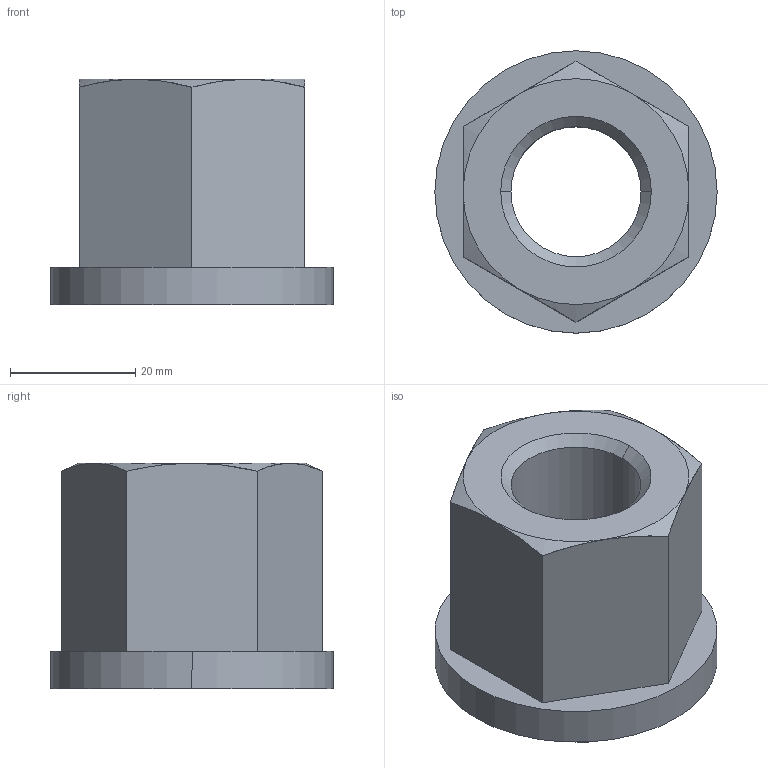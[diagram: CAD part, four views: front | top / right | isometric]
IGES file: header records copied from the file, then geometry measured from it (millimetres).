
Start section: 3D InterOp IGES (v. 2018 1.0.2), Spatial Corp. Copyright (c) 1999-2017.
Global section: file name: HWS_9014_24.igs; native system: Spatial Corp.; preprocessor: 3D InterOp GENERIC/IGES 3.0; author: Noname; organization: Noname; date: 20191010.134752; units: metre
Bounding box: 45 x 45 x 36 mm (x, y, z)
Surface area: 9278.8 mm2 (no closed solid volume)
Topology: 0 solids, 0 shells, 23 faces, 100 edges, 100 vertices
Faces by surface type: revolution 14, extrusion 9
